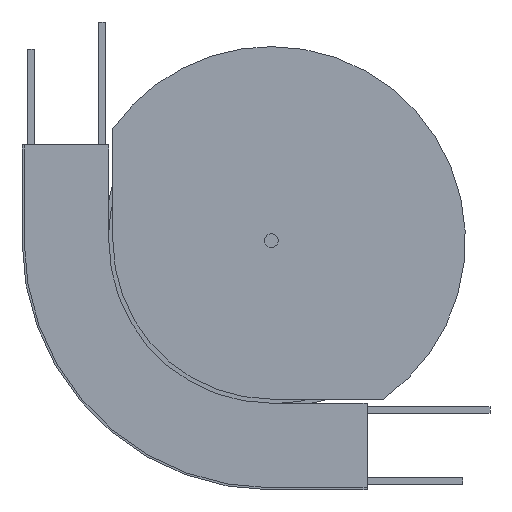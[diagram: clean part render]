
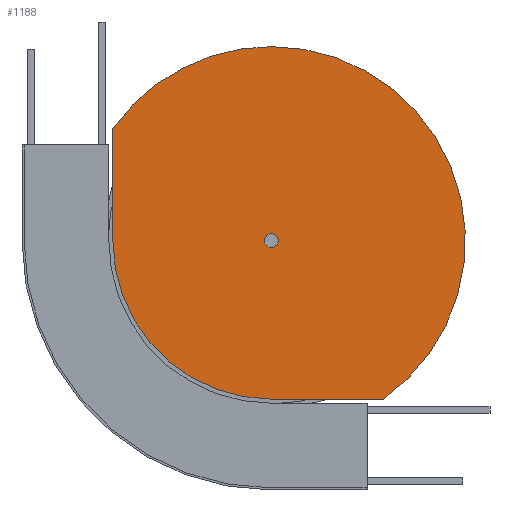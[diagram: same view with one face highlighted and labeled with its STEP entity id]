
A CAD part, front view. The second image highlights one B-rep face of the part: STEP entity #1188.
In plain terms, the highlighted planar face has unit normal (0, -1, 0).
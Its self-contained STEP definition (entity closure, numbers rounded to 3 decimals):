
#228 = CARTESIAN_POINT ( 'NONE',  ( 150., -38.75, -186. ) ) ;
#315 = AXIS2_PLACEMENT_3D ( 'NONE', #4007, #534, #4484 ) ;
#351 = EDGE_CURVE ( 'NONE', #1595, #5182, #961, .T. ) ;
#450 = EDGE_CURVE ( 'NONE', #2130, #3851, #5197, .T. ) ;
#461 = AXIS2_PLACEMENT_3D ( 'NONE', #5011, #2449, #727 ) ;
#508 = CIRCLE ( 'NONE', #1587, 142. ) ;
#528 = AXIS2_PLACEMENT_3D ( 'NONE', #2511, #1211, #1611 ) ;
#534 = DIRECTION ( 'NONE',  ( 0., 1., 0. ) ) ;
#551 = CARTESIAN_POINT ( 'NONE',  ( 34., -38.75, 11.902 ) ) ;
#727 = DIRECTION ( 'NONE',  ( 0., 0., 1. ) ) ;
#802 = CARTESIAN_POINT ( 'NONE',  ( 34., -38.75, -70. ) ) ;
#857 = EDGE_LOOP ( 'NONE', ( #4328, #4831, #1058, #3081, #1525 ) ) ;
#905 = LINE ( 'NONE', #1919, #1110 ) ;
#924 = EDGE_CURVE ( 'NONE', #1855, #5444, #5185, .T. ) ;
#961 = CIRCLE ( 'NONE', #528, 5. ) ;
#1058 = ORIENTED_EDGE ( 'NONE', *, *, #924, .F. ) ;
#1110 = VECTOR ( 'NONE', #4949, 1000. ) ;
#1126 = CARTESIAN_POINT ( 'NONE',  ( 150., -38.75, 72. ) ) ;
#1188 = ADVANCED_FACE ( 'NONE', ( #4781, #1328 ), #2247, .F. ) ;
#1211 = DIRECTION ( 'NONE',  ( 0., -1., 0. ) ) ;
#1241 = DIRECTION ( 'NONE',  ( 0., 1., 0. ) ) ;
#1266 = CARTESIAN_POINT ( 'NONE',  ( 150., -38.75, -70. ) ) ;
#1328 = FACE_OUTER_BOUND ( 'NONE', #857, .T. ) ;
#1342 = EDGE_CURVE ( 'NONE', #3470, #1855, #508, .T. ) ;
#1447 = CARTESIAN_POINT ( 'NONE',  ( 34., -38.75, -70. ) ) ;
#1525 = ORIENTED_EDGE ( 'NONE', *, *, #3099, .F. ) ;
#1587 = AXIS2_PLACEMENT_3D ( 'NONE', #4970, #2407, #5429 ) ;
#1595 = VERTEX_POINT ( 'NONE', #2680 ) ;
#1603 = DIRECTION ( 'NONE',  ( 0., 0., 1. ) ) ;
#1611 = DIRECTION ( 'NONE',  ( 0., 0., 1. ) ) ;
#1715 = EDGE_CURVE ( 'NONE', #5444, #3851, #905, .T. ) ;
#1780 = CARTESIAN_POINT ( 'NONE',  ( 231.902, -38.75, -186. ) ) ;
#1855 = VERTEX_POINT ( 'NONE', #1126 ) ;
#1896 = AXIS2_PLACEMENT_3D ( 'NONE', #1266, #3448, #5615 ) ;
#1919 = CARTESIAN_POINT ( 'NONE',  ( 150., -38.75, -186. ) ) ;
#2117 = CARTESIAN_POINT ( 'NONE',  ( 150., -38.75, -70. ) ) ;
#2130 = VERTEX_POINT ( 'NONE', #1447 ) ;
#2247 = PLANE ( 'NONE',  #315 ) ;
#2407 = DIRECTION ( 'NONE',  ( 0., 1., 0. ) ) ;
#2449 = DIRECTION ( 'NONE',  ( 0., -1., 0. ) ) ;
#2458 = EDGE_CURVE ( 'NONE', #5182, #1595, #2516, .T. ) ;
#2511 = CARTESIAN_POINT ( 'NONE',  ( 150., -38.75, -70. ) ) ;
#2516 = CIRCLE ( 'NONE', #461, 5. ) ;
#2680 = CARTESIAN_POINT ( 'NONE',  ( 150., -38.75, -65. ) ) ;
#2923 = CARTESIAN_POINT ( 'NONE',  ( 150., -38.75, -75. ) ) ;
#3081 = ORIENTED_EDGE ( 'NONE', *, *, #1342, .F. ) ;
#3099 = EDGE_CURVE ( 'NONE', #2130, #3470, #5541, .T. ) ;
#3448 = DIRECTION ( 'NONE',  ( 0., -1., 0. ) ) ;
#3470 = VERTEX_POINT ( 'NONE', #551 ) ;
#3508 = AXIS2_PLACEMENT_3D ( 'NONE', #2117, #1241, #4712 ) ;
#3851 = VERTEX_POINT ( 'NONE', #228 ) ;
#4007 = CARTESIAN_POINT ( 'NONE',  ( 34., -38.75, -70. ) ) ;
#4107 = ORIENTED_EDGE ( 'NONE', *, *, #2458, .F. ) ;
#4328 = ORIENTED_EDGE ( 'NONE', *, *, #450, .T. ) ;
#4437 = EDGE_LOOP ( 'NONE', ( #5230, #4107 ) ) ;
#4484 = DIRECTION ( 'NONE',  ( 0., 0., -1. ) ) ;
#4541 = VECTOR ( 'NONE', #1603, 1000. ) ;
#4712 = DIRECTION ( 'NONE',  ( 0., 0., 1. ) ) ;
#4781 = FACE_BOUND ( 'NONE', #4437, .T. ) ;
#4831 = ORIENTED_EDGE ( 'NONE', *, *, #1715, .F. ) ;
#4949 = DIRECTION ( 'NONE',  ( -1., 0., 0. ) ) ;
#4970 = CARTESIAN_POINT ( 'NONE',  ( 150., -38.75, -70. ) ) ;
#5011 = CARTESIAN_POINT ( 'NONE',  ( 150., -38.75, -70. ) ) ;
#5182 = VERTEX_POINT ( 'NONE', #2923 ) ;
#5185 = CIRCLE ( 'NONE', #3508, 142. ) ;
#5197 = CIRCLE ( 'NONE', #1896, 116. ) ;
#5230 = ORIENTED_EDGE ( 'NONE', *, *, #351, .F. ) ;
#5429 = DIRECTION ( 'NONE',  ( 0., 0., 1. ) ) ;
#5444 = VERTEX_POINT ( 'NONE', #1780 ) ;
#5541 = LINE ( 'NONE', #802, #4541 ) ;
#5615 = DIRECTION ( 'NONE',  ( 0., 0., -1. ) ) ;
